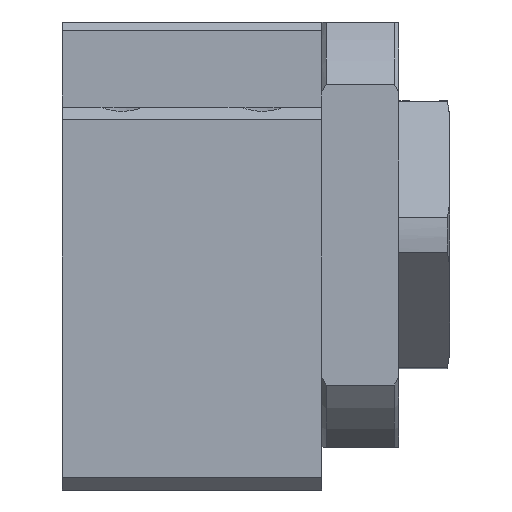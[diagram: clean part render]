
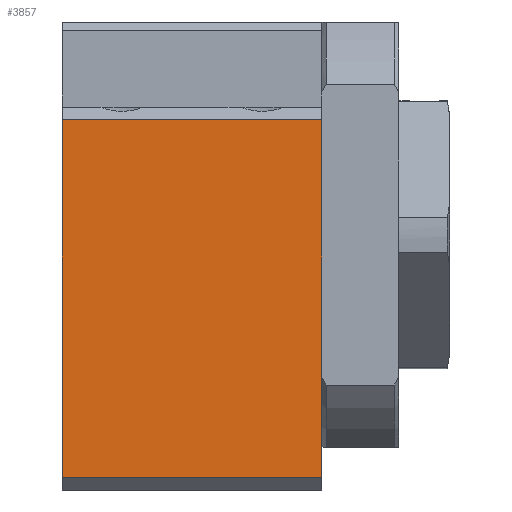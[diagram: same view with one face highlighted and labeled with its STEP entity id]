
A CAD part, left-side view. The second image highlights one B-rep face of the part: STEP entity #3857.
In plain terms, the highlighted free-form (B-spline) face has degree [1, 1] with [2, 2] control points.
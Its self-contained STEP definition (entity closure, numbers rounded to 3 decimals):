
#3197=CARTESIAN_POINT('',(-80.,27.,-61.));
#3198=VERTEX_POINT('',#3197);
#3204=CARTESIAN_POINT('',(-80.,27.,0.));
#3205=VERTEX_POINT('',#3204);
#3206=CARTESIAN_POINT('',(-80.,27.,-61.));
#3207=CARTESIAN_POINT('',(-80.,27.,0.));
#3208=B_SPLINE_CURVE_WITH_KNOTS('',1,(#3206,#3207),.POLYLINE_FORM.,.F.,.U.,(2,2),(0.,1.),.UNSPECIFIED.);
#3209=EDGE_CURVE('',#3198,#3205,#3208,.T.);
#3693=CARTESIAN_POINT('',(-80.,-57.,0.));
#3694=VERTEX_POINT('',#3693);
#3700=CARTESIAN_POINT('',(-80.,-57.,-61.));
#3701=VERTEX_POINT('',#3700);
#3702=CARTESIAN_POINT('',(-80.,-57.,0.));
#3703=CARTESIAN_POINT('',(-80.,-57.,-61.));
#3704=B_SPLINE_CURVE_WITH_KNOTS('',1,(#3702,#3703),.POLYLINE_FORM.,.F.,.U.,(2,2),(0.,1.),.UNSPECIFIED.);
#3705=EDGE_CURVE('',#3694,#3701,#3704,.T.);
#3838=CARTESIAN_POINT('',(-80.,-128.718,-216.718));
#3839=CARTESIAN_POINT('',(-80.,182.718,-216.718));
#3840=CARTESIAN_POINT('',(-80.,-128.718,94.718));
#3841=CARTESIAN_POINT('',(-80.,182.718,94.718));
#3842=B_SPLINE_SURFACE_WITH_KNOTS('',1,1,((#3838,#3839),(#3840,#3841)),.PLANE_SURF.,.F.,.F.,.U.,(2,2),(2,2),(0.,1.),(0.,1.),.UNSPECIFIED.);
#3843=CARTESIAN_POINT('',(-80.,27.,0.));
#3844=CARTESIAN_POINT('',(-80.,-57.,0.));
#3845=B_SPLINE_CURVE_WITH_KNOTS('',1,(#3843,#3844),.POLYLINE_FORM.,.F.,.U.,(2,2),(0.,1.),.UNSPECIFIED.);
#3846=EDGE_CURVE('',#3205,#3694,#3845,.T.);
#3847=ORIENTED_EDGE('',*,*,#3846,.F.);
#3848=ORIENTED_EDGE('',*,*,#3209,.F.);
#3849=CARTESIAN_POINT('',(-80.,-57.,-61.));
#3850=CARTESIAN_POINT('',(-80.,27.,-61.));
#3851=B_SPLINE_CURVE_WITH_KNOTS('',1,(#3849,#3850),.POLYLINE_FORM.,.F.,.U.,(2,2),(0.,1.),.UNSPECIFIED.);
#3852=EDGE_CURVE('',#3701,#3198,#3851,.T.);
#3853=ORIENTED_EDGE('',*,*,#3852,.F.);
#3854=ORIENTED_EDGE('',*,*,#3705,.F.);
#3855=EDGE_LOOP('',(#3847,#3848,#3853,#3854));
#3856=FACE_OUTER_BOUND('',#3855,.T.);
#3857=ADVANCED_FACE('',(#3856),#3842,.T.);
